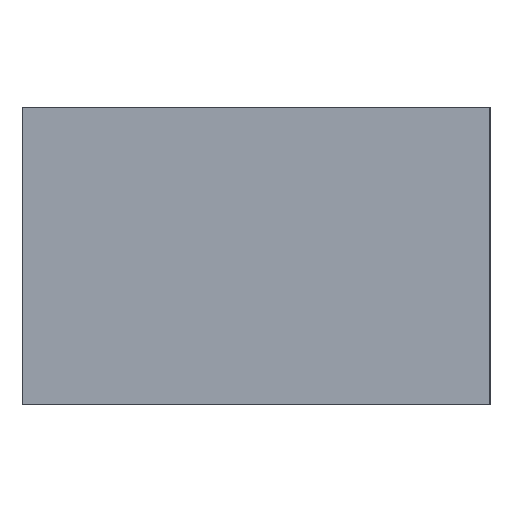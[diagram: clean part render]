
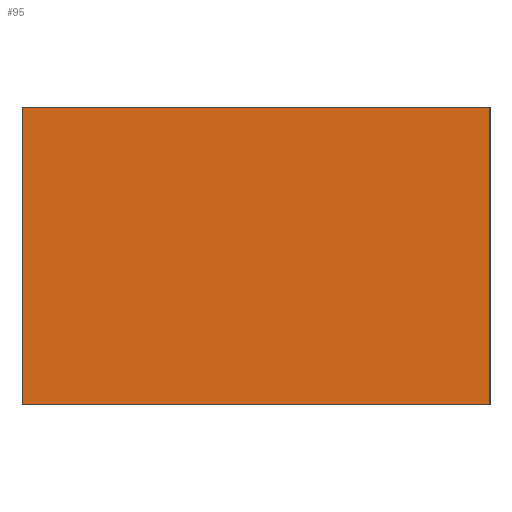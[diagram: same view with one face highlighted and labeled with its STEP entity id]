
A CAD part, left-side view. The second image highlights one B-rep face of the part: STEP entity #95.
In plain terms, the highlighted planar face has unit normal (-1, 0, 0).
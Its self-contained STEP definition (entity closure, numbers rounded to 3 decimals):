
#95=ADVANCED_FACE('',(#159),#160,.T.);
#159=FACE_OUTER_BOUND('',#230,.T.);
#160=PLANE('',#231);
#230=EDGE_LOOP('',(#353,#354,#355,#356));
#231=AXIS2_PLACEMENT_3D('',#357,#358,#359);
#353=ORIENTED_EDGE('',*,*,#435,.T.);
#354=ORIENTED_EDGE('',*,*,#436,.F.);
#355=ORIENTED_EDGE('',*,*,#426,.T.);
#356=ORIENTED_EDGE('',*,*,#434,.T.);
#357=CARTESIAN_POINT('',(120.0,147.5,0.0));
#358=DIRECTION('',(-1.0,0.0,0.0));
#359=DIRECTION('',(0.0,-1.0,0.0));
#426=EDGE_CURVE('',#486,#487,#488,.T.);
#434=EDGE_CURVE('',#487,#499,#501,.T.);
#435=EDGE_CURVE('',#499,#502,#503,.T.);
#436=EDGE_CURVE('',#486,#502,#504,.T.);
#486=VERTEX_POINT('',#562);
#487=VERTEX_POINT('',#563);
#488=LINE('',#564,#565);
#499=VERTEX_POINT('',#582);
#501=LINE('',#585,#586);
#502=VERTEX_POINT('',#587);
#503=LINE('',#588,#589);
#504=LINE('',#590,#591);
#562=CARTESIAN_POINT('',(120.0,175.0,-3.0));
#563=CARTESIAN_POINT('',(120.0,120.0,-3.0));
#564=CARTESIAN_POINT('',(120.0,120.0,-3.0));
#565=VECTOR('',#666,1.0);
#582=CARTESIAN_POINT('',(120.0,120.0,32.0));
#585=CARTESIAN_POINT('',(120.0,120.0,0.0));
#586=VECTOR('',#674,1.0);
#587=CARTESIAN_POINT('',(120.0,175.0,32.0));
#588=CARTESIAN_POINT('',(120.0,175.0,32.0));
#589=VECTOR('',#675,1.0);
#590=CARTESIAN_POINT('',(120.0,175.0,0.0));
#591=VECTOR('',#676,1.0);
#666=DIRECTION('',(0.0,-1.0,0.0));
#674=DIRECTION('',(0.0,0.0,1.0));
#675=DIRECTION('',(0.0,1.0,0.0));
#676=DIRECTION('',(0.0,0.0,1.0));
